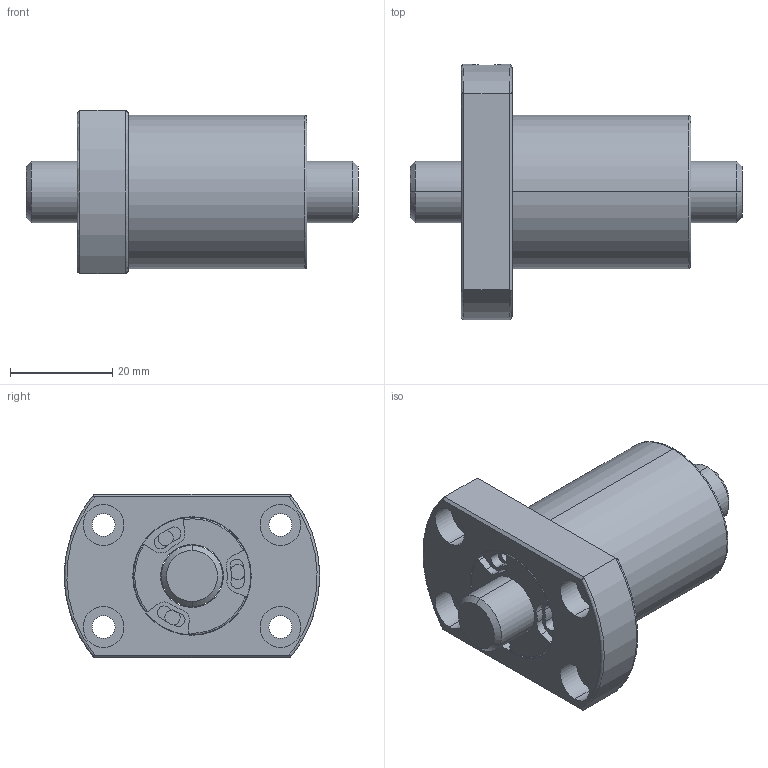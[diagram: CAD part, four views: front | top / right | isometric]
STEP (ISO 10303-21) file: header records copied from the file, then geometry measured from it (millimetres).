
FILE_DESCRIPTION (( 'STEP AP203' ), '1' );
FILE_NAME ('SFVSR01210B1D-C.STEP', '2020-06-17T03:56:31', ( '' ), ( '' ), 'SwSTEP 2.0', 'SolidWorks 2013', '' );
FILE_SCHEMA (( 'CONFIG_CONTROL_DESIGN' ));
Length unit declared in the file: millimetre
Products named in the file (1): SFVSR01210B1D-C
Bounding box: 65 x 50 x 32 mm (x, y, z)
Volume: 38287.3 mm3; surface area: 14532.1 mm2
Topology: 2 solids, 2 shells, 216 faces, 542 edges, 348 vertices
Faces by surface type: cylinder 126, plane 74, bspline 12, cone 4
Entity records: 7238 total; most frequent: CARTESIAN_POINT 1804, DIRECTION 1224, ORIENTED_EDGE 1084, EDGE_CURVE 542, AXIS2_PLACEMENT_3D 519, VERTEX_POINT 348, CIRCLE 314, EDGE_LOOP 248
